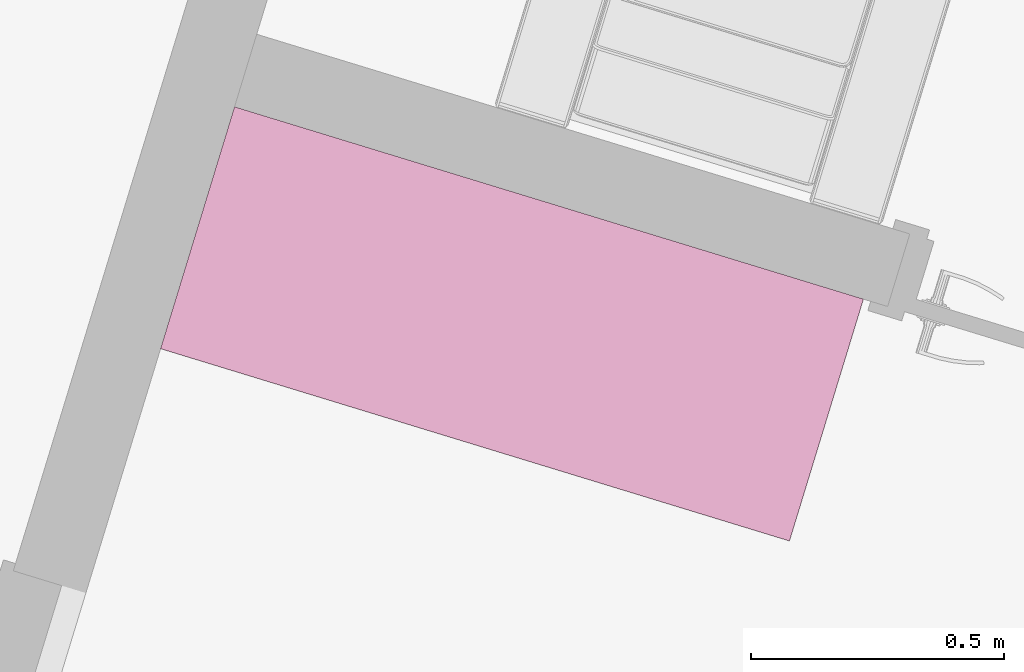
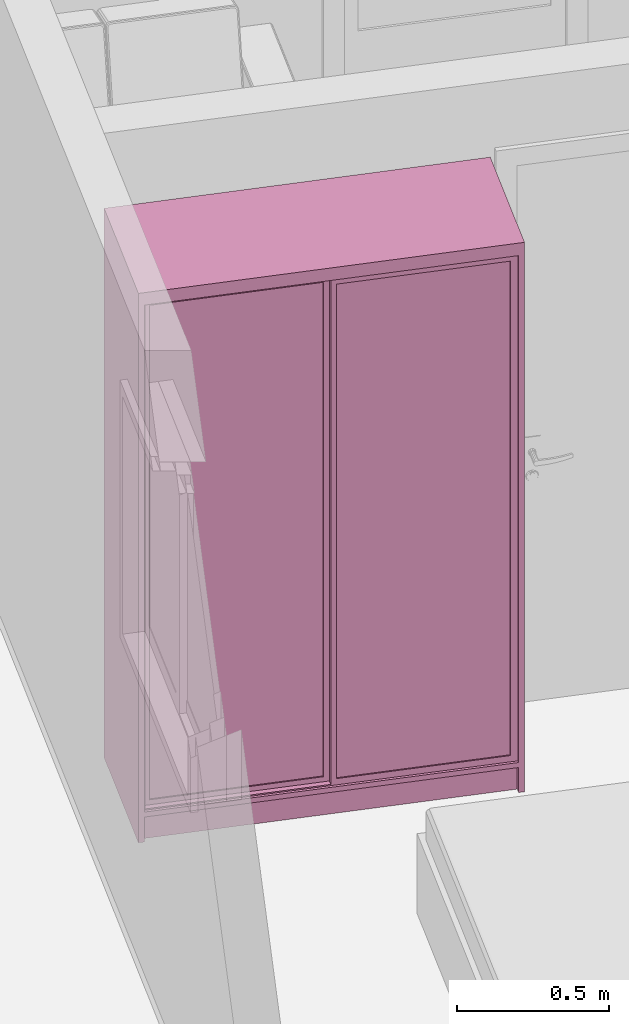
# One storey, part 11 of 13: 1 furnishing.
"""IFC2X3 building model written with IfcOpenShell, lengths in millimetres."""

from ifc_helpers import new_model, entity, si_unit, converted_unit, derived_unit, money_unit, direction, frame, origin_with_axes, place, context, subcontext, project, spatial, faceted_brep, type_object, element, save


model = new_model("IFC2X3")

# Units and contexts
model_context = context("Model", 3, precision=0.01, world=origin_with_axes(), true_north=direction((0.0, 1.0)))
body_context = subcontext(model_context, "Body", "Model", "MODEL_VIEW")
ifc_project = project(units=[si_unit("LENGTHUNIT", "METRE", prefix="MILLI"), si_unit("AREAUNIT", "SQUARE_METRE"), si_unit("VOLUMEUNIT", "CUBIC_METRE"), converted_unit("PLANEANGLEUNIT", "DEGREE", entity("IfcPlaneAngleMeasure", 0.0174532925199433), si_unit("PLANEANGLEUNIT", "RADIAN"), dimensions=[0, 0, 0, 0, 0, 0, 0]), money_unit("USD"), converted_unit("TIMEUNIT", "Year", entity("IfcTimeMeasure", 31557600.0), si_unit("TIMEUNIT", "SECOND"), dimensions=[0, 0, 1, 0, 0, 0, 0]), si_unit("MASSUNIT", "GRAM", prefix="KILO"), si_unit("THERMODYNAMICTEMPERATUREUNIT", "DEGREE_CELSIUS"), si_unit("LUMINOUSINTENSITYUNIT", "LUMEN"), si_unit("ENERGYUNIT", "JOULE", prefix="MEGA"), derived_unit("THERMALCONDUCTANCEUNIT", [(si_unit("POWERUNIT", "WATT"), 1), (si_unit("LENGTHUNIT", "METRE"), -1), (si_unit("THERMODYNAMICTEMPERATUREUNIT", "KELVIN"), -1)]), derived_unit("SPECIFICHEATCAPACITYUNIT", [(si_unit("ENERGYUNIT", "JOULE"), 1), (si_unit("MASSUNIT", "GRAM", prefix="KILO"), -1), (si_unit("THERMODYNAMICTEMPERATUREUNIT", "KELVIN"), -1)]), derived_unit("MASSDENSITYUNIT", [(si_unit("MASSUNIT", "GRAM", prefix="KILO"), 1), (si_unit("VOLUMEUNIT", "CUBIC_METRE"), -1)])], contexts=[model_context])

# Site, building, storey, space
site_placement = place(None, frame((0.0, 0.0, 0.0), z_axis=(0.0, 0.0, 1.0), x_axis=(0.9563047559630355, -0.2923717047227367, 0.0)))
site = spatial("IfcSite", under=ifc_project, at=site_placement, Name="Site", CompositionType="ELEMENT")
building_placement = place(site_placement, origin_with_axes())
building = spatial("IfcBuilding", under=site, at=building_placement, Name="Casa Térrea Isolada", CompositionType="ELEMENT")
storey_placement = place(building_placement, origin_with_axes())
storey = spatial("IfcBuildingStorey", under=building, at=storey_placement, Name="Terreo", CompositionType="ELEMENT", Elevation=0.0)
space_placement = place(storey_placement, frame((150.0015215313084, 149.9985476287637, 0.0), z_axis=(0.0, 0.0, 1.0), x_axis=(1.0, 0.0, 0.0)))
space = spatial("IfcSpace", under=storey, at=space_placement, Name="02", CompositionType="ELEMENT", InteriorOrExteriorSpace="INTERNAL")

# Furnishing
furniture_type = type_object("IfcFurnitureType", Name="Wardrobe Modular 27", AssemblyPlace="NOTDEFINED")
furnishing_placement = place(space_placement, frame((0.0, 2499.999224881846, 0.0), z_axis=(0.0, 0.0, 1.0), x_axis=(1.0, 0.0, 0.0)))
element("IfcFurnishingElement", 1, at=furnishing_placement, inside=space, type_object=furniture_type, Name="MB11", context=body_context, shape_type="Brep", body=[
    faceted_brep([(1300.0, 500.0006224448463, 99.99999999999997), (1300.0, 500.0006224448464, 2170.0), (1300.0, 0.0, 2170.0), (1300.0, 0.0, 100.0), (0.0, 500.0006224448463, 99.99999999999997), (0.0, 500.0006224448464, 2170.0), (1280.0, 500.0006224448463, 120.0), (1280.0, 500.0006224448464, 2150.0), (20.0, 500.0006224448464, 2150.0), (20.0, 500.0006224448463, 120.0), (0.0, 0.0, 2170.0), (0.0, 0.0, 100.0), (1280.0, 0.0, 120.0), (20.0, 0.0, 120.0), (20.0, 0.0, 2150.0), (1280.0, 0.0, 2150.0)], [[[0, 1, 2, 3]], [[0, 4, 5, 1], [6, 7, 8, 9]], [[1, 5, 10, 2]], [[3, 2, 10, 11], [12, 13, 14, 15]], [[4, 0, 3, 11]], [[5, 4, 11, 10]], [[7, 6, 12, 15]], [[8, 7, 15, 14]], [[9, 8, 14, 13]], [[6, 9, 13, 12]]]),
    faceted_brep([(20.0, 500.0006224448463, 679.9999999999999), (20.0, 70.0, 679.9999999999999), (20.0, 70.0, 700.0), (20.0, 500.0006224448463, 700.0), (1280.0, 500.0006224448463, 679.9999999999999), (1280.0, 70.0, 679.9999999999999), (1280.0, 70.0, 700.0), (1280.0, 500.0006224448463, 700.0)], [[[0, 1, 2, 3]], [[0, 4, 5, 1]], [[1, 5, 6, 2]], [[3, 2, 6, 7]], [[4, 0, 3, 7]], [[5, 4, 7, 6]]]),
    faceted_brep([(1300.0, 500.0006224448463, 2170.0), (1300.0, 500.0006224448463, 2200.0), (1300.0, 0.0, 2200.0), (1300.0, 0.0, 2170.0), (0.0, 500.0006224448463, 2170.0), (0.0, 500.0006224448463, 2200.0), (0.0, 0.0, 2200.0), (0.0, 0.0, 2170.0)], [[[0, 1, 2, 3]], [[4, 5, 1, 0]], [[1, 5, 6, 2]], [[3, 2, 6, 7]], [[0, 3, 7, 4]], [[7, 6, 5, 4]]]),
    faceted_brep([(20.00000000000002, 500.0006224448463, 0.0), (20.00000000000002, 480.0006224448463, 0.0), (20.00000000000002, 480.0006224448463, 100.0), (20.00000000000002, 500.0006224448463, 100.0), (1280.0, 500.0006224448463, 0.0), (1280.0, 480.0006224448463, 0.0), (1280.0, 480.0006224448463, 100.0), (1280.0, 500.0006224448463, 100.0)], [[[0, 1, 2, 3]], [[0, 4, 5, 1]], [[1, 5, 6, 2]], [[3, 2, 6, 7]], [[4, 0, 3, 7]], [[5, 4, 7, 6]]]),
    faceted_brep([(0.0, 500.0006224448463, 0.0), (0.0, 0.0, 0.0), (0.0, 0.0, 100.0), (0.0, 500.0006224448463, 100.0), (20.00000000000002, 500.0006224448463, 0.0), (20.00000000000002, 0.0, 0.0), (20.00000000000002, 0.0, 100.0), (20.00000000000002, 500.0006224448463, 100.0)], [[[0, 1, 2, 3]], [[0, 4, 5, 1]], [[1, 5, 6, 2]], [[3, 2, 6, 7]], [[4, 0, 3, 7]], [[5, 4, 7, 6]]]),
    faceted_brep([(1280.0, 500.0006224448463, 0.0), (1280.0, 0.0, 0.0), (1280.0, 0.0, 100.0), (1280.0, 500.0006224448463, 100.0), (1300.0, 500.0006224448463, 0.0), (1300.0, 0.0, 0.0), (1300.0, 0.0, 100.0), (1300.0, 500.0006224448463, 100.0)], [[[0, 1, 2, 3]], [[0, 4, 5, 1]], [[1, 5, 6, 2]], [[3, 2, 6, 7]], [[4, 0, 3, 7]], [[5, 4, 7, 6]]]),
    faceted_brep([(20.00000000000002, 40.00000000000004, 0.0), (20.00000000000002, 20.00000000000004, 0.0), (20.00000000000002, 20.00000000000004, 100.0), (20.00000000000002, 40.00000000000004, 100.0), (1280.0, 40.00000000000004, 0.0), (1280.0, 20.00000000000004, 0.0), (1280.0, 20.00000000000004, 100.0), (1280.0, 40.00000000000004, 100.0)], [[[0, 1, 2, 3]], [[0, 4, 5, 1]], [[1, 5, 6, 2]], [[3, 2, 6, 7]], [[4, 0, 3, 7]], [[5, 4, 7, 6]]]),
    faceted_brep([(20.0, 269.0003112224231, 2012.5), (20.0, 277.0003112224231, 1998.643593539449), (45.0, 277.0003112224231, 1998.643593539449), (45.0, 269.0003112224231, 2012.5), (20.0, 269.0003112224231, 2037.5), (20.0, 277.0003112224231, 2051.356406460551), (20.0, 293.0003112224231, 2051.356406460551), (20.0, 301.0003112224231, 2037.5), (20.0, 301.0003112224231, 2012.5), (20.0, 293.0003112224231, 1998.643593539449), (45.0, 293.0003112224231, 1998.643593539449), (45.0, 301.0003112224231, 2012.5), (45.0, 301.0003112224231, 2037.5), (45.0, 293.0003112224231, 2051.356406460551), (45.0, 277.0003112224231, 2051.356406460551), (45.0, 269.0003112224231, 2037.5)], [[[0, 1, 2, 3]], [[0, 4, 5, 6, 7, 8, 9, 1]], [[1, 9, 10, 2]], [[3, 2, 10, 11, 12, 13, 14, 15]], [[4, 0, 3, 15]], [[5, 4, 15, 14]], [[6, 5, 14, 13]], [[7, 6, 13, 12]], [[8, 7, 12, 11]], [[9, 8, 11, 10]]]),
    faceted_brep([(45.0, 272.5003112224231, 2012.5), (45.0, 278.7503112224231, 2001.674682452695), (1255.0, 278.7503112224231, 2001.674682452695), (1255.0, 272.5003112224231, 2012.5), (45.0, 272.5003112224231, 2037.5), (45.0, 278.7503112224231, 2048.325317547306), (45.0, 291.2503112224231, 2048.325317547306), (45.0, 297.5003112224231, 2037.5), (45.0, 297.5003112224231, 2012.5), (45.0, 291.2503112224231, 2001.674682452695), (1255.0, 291.2503112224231, 2001.674682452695), (1255.0, 297.500311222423, 2012.5), (1255.0, 297.500311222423, 2037.5), (1255.0, 291.2503112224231, 2048.325317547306), (1255.0, 278.7503112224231, 2048.325317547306), (1255.0, 272.5003112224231, 2037.5)], [[[0, 1, 2, 3]], [[0, 4, 5, 6, 7, 8, 9, 1]], [[1, 9, 10, 2]], [[3, 2, 10, 11, 12, 13, 14, 15]], [[4, 0, 3, 15]], [[5, 4, 15, 14]], [[6, 5, 14, 13]], [[7, 6, 13, 12]], [[8, 7, 12, 11]], [[9, 8, 11, 10]]]),
    faceted_brep([(1255.0, 269.0003112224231, 2012.5), (1255.0, 277.0003112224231, 1998.643593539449), (1280.0, 277.0003112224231, 1998.643593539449), (1280.0, 269.0003112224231, 2012.5), (1255.0, 269.0003112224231, 2037.5), (1255.0, 277.0003112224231, 2051.356406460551), (1255.0, 293.0003112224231, 2051.356406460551), (1255.0, 301.0003112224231, 2037.5), (1255.0, 301.0003112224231, 2012.5), (1255.0, 293.0003112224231, 1998.643593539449), (1280.0, 293.0003112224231, 1998.643593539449), (1280.0, 301.0003112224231, 2012.5), (1280.0, 301.0003112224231, 2037.5), (1280.0, 293.0003112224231, 2051.356406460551), (1280.0, 277.0003112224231, 2051.356406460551), (1280.0, 269.0003112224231, 2037.5)], [[[0, 1, 2, 3]], [[0, 4, 5, 6, 7, 8, 9, 1]], [[1, 9, 10, 2]], [[3, 2, 10, 11, 12, 13, 14, 15]], [[4, 0, 3, 15]], [[5, 4, 15, 14]], [[6, 5, 14, 13]], [[7, 6, 13, 12]], [[8, 7, 12, 11]], [[9, 8, 11, 10]]]),
    faceted_brep([(20.49999999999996, 70.0, 120.5), (1279.5, 70.0, 120.5), (1279.5, 50.0, 120.5), (20.49999999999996, 50.0, 120.5), (20.49999999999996, 70.00000000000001, 309.5), (80.4999999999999, 70.00000000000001, 309.5), (80.4999999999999, 70.00000000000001, 279.4999999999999), (1219.5, 70.00000000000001, 279.4999999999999), (1219.5, 70.00000000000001, 309.5), (1279.5, 70.00000000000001, 309.5), (1279.5, 50.00000000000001, 309.5), (1219.5, 50.00000000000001, 309.5), (1219.5, 50.00000000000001, 279.4999999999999), (80.4999999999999, 50.00000000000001, 279.4999999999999), (80.4999999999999, 50.00000000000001, 309.5), (20.49999999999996, 50.00000000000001, 309.5)], [[[0, 1, 2, 3]], [[0, 4, 5, 6, 7, 8, 9, 1]], [[1, 9, 10, 2]], [[3, 2, 10, 11, 12, 13, 14, 15]], [[4, 0, 3, 15]], [[5, 4, 15, 14]], [[6, 5, 14, 13]], [[7, 6, 13, 12]], [[8, 7, 12, 11]], [[9, 8, 11, 10]]]),
    faceted_brep([(50.0, 70.0, 130.0), (1250.0, 70.0, 130.0), (1250.0, 70.0, 150.0), (50.0, 70.0, 150.0), (50.0, 470.0006224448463, 130.0), (1250.0, 470.0006224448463, 130.0), (1250.0, 470.0006224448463, 150.0), (50.0, 470.0006224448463, 150.0)], [[[0, 1, 2, 3]], [[0, 4, 5, 1]], [[1, 5, 6, 2]], [[3, 2, 6, 7]], [[4, 0, 3, 7]], [[5, 4, 7, 6]]]),
    faceted_brep([(30.0, 70.0, 130.0), (50.0, 70.0, 130.0), (50.0, 70.0, 290.0), (30.0, 70.0, 290.0), (30.0, 490.0006224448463, 130.0), (50.0, 490.0006224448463, 130.0), (50.0, 490.0006224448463, 290.0), (30.0, 490.0006224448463, 290.0)], [[[0, 1, 2, 3]], [[0, 4, 5, 1]], [[1, 5, 6, 2]], [[3, 2, 6, 7]], [[4, 0, 3, 7]], [[5, 4, 7, 6]]]),
    faceted_brep([(1270.0, 490.0006224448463, 130.0), (1250.0, 490.0006224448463, 130.0), (1250.0, 490.0006224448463, 290.0), (1270.0, 490.0006224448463, 290.0), (1270.0, 70.0, 130.0), (1250.0, 70.0, 130.0), (1250.0, 70.0, 290.0), (1270.0, 70.0, 290.0)], [[[0, 1, 2, 3]], [[0, 4, 5, 1]], [[1, 5, 6, 2]], [[3, 2, 6, 7]], [[4, 0, 3, 7]], [[5, 4, 7, 6]]]),
    faceted_brep([(50.0, 470.0006224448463, 130.0), (1250.0, 470.0006224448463, 130.0), (1250.0, 470.0006224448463, 290.0), (50.0, 470.0006224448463, 290.0), (50.0, 490.0006224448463, 130.0), (1250.0, 490.0006224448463, 130.0), (1250.0, 490.0006224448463, 290.0), (50.0, 490.0006224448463, 290.0)], [[[0, 1, 2, 3]], [[0, 4, 5, 1]], [[1, 5, 6, 2]], [[3, 2, 6, 7]], [[4, 0, 3, 7]], [[5, 4, 7, 6]]]),
    faceted_brep([(20.49999999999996, 70.0, 310.5), (1279.5, 70.0, 310.5), (1279.5, 50.0, 310.5), (20.49999999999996, 50.0, 310.5), (20.49999999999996, 70.00000000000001, 499.4999999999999), (80.4999999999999, 70.00000000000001, 499.4999999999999), (80.4999999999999, 70.00000000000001, 469.5), (1219.5, 70.00000000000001, 469.5), (1219.5, 70.00000000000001, 499.4999999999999), (1279.5, 70.00000000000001, 499.4999999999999), (1279.5, 50.00000000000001, 499.4999999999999), (1219.5, 50.00000000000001, 499.4999999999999), (1219.5, 50.00000000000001, 469.5), (80.4999999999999, 50.00000000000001, 469.5), (80.4999999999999, 50.00000000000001, 499.4999999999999), (20.49999999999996, 50.00000000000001, 499.4999999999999)], [[[0, 1, 2, 3]], [[0, 4, 5, 6, 7, 8, 9, 1]], [[1, 9, 10, 2]], [[3, 2, 10, 11, 12, 13, 14, 15]], [[4, 0, 3, 15]], [[5, 4, 15, 14]], [[6, 5, 14, 13]], [[7, 6, 13, 12]], [[8, 7, 12, 11]], [[9, 8, 11, 10]]]),
    faceted_brep([(50.0, 70.0, 320.0), (1250.0, 70.0, 320.0), (1250.0, 70.0, 340.0), (50.0, 70.0, 340.0), (50.0, 470.0006224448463, 320.0), (1250.0, 470.0006224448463, 320.0), (1250.0, 470.0006224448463, 340.0), (50.0, 470.0006224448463, 340.0)], [[[0, 1, 2, 3]], [[0, 4, 5, 1]], [[1, 5, 6, 2]], [[3, 2, 6, 7]], [[4, 0, 3, 7]], [[5, 4, 7, 6]]]),
    faceted_brep([(30.0, 70.0, 320.0), (50.0, 70.0, 320.0), (50.0, 70.0, 480.0), (30.0, 70.0, 480.0), (30.0, 490.0006224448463, 320.0), (50.0, 490.0006224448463, 320.0), (50.0, 490.0006224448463, 480.0), (30.0, 490.0006224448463, 480.0)], [[[0, 1, 2, 3]], [[0, 4, 5, 1]], [[1, 5, 6, 2]], [[3, 2, 6, 7]], [[4, 0, 3, 7]], [[5, 4, 7, 6]]]),
    faceted_brep([(1270.0, 490.0006224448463, 320.0), (1250.0, 490.0006224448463, 320.0), (1250.0, 490.0006224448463, 480.0), (1270.0, 490.0006224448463, 480.0), (1270.0, 70.0, 320.0), (1250.0, 70.0, 320.0), (1250.0, 70.0, 480.0), (1270.0, 70.0, 480.0)], [[[0, 1, 2, 3]], [[0, 4, 5, 1]], [[1, 5, 6, 2]], [[3, 2, 6, 7]], [[4, 0, 3, 7]], [[5, 4, 7, 6]]]),
    faceted_brep([(50.0, 470.0006224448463, 320.0), (1250.0, 470.0006224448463, 320.0), (1250.0, 470.0006224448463, 480.0), (50.0, 470.0006224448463, 480.0), (50.0, 490.0006224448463, 320.0), (1250.0, 490.0006224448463, 320.0), (1250.0, 490.0006224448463, 480.0), (50.0, 490.0006224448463, 480.0)], [[[0, 1, 2, 3]], [[0, 4, 5, 1]], [[1, 5, 6, 2]], [[3, 2, 6, 7]], [[4, 0, 3, 7]], [[5, 4, 7, 6]]]),
    faceted_brep([(20.49999999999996, 70.0, 500.4999999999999), (1279.5, 70.0, 500.4999999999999), (1279.5, 50.0, 500.4999999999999), (20.49999999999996, 50.0, 500.4999999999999), (20.49999999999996, 70.00000000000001, 689.4999999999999), (80.4999999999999, 70.00000000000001, 689.4999999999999), (80.4999999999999, 70.00000000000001, 659.5), (1219.5, 70.00000000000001, 659.5), (1219.5, 70.00000000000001, 689.4999999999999), (1279.5, 70.00000000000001, 689.4999999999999), (1279.5, 50.00000000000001, 689.4999999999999), (1219.5, 50.00000000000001, 689.4999999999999), (1219.5, 50.00000000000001, 659.5), (80.4999999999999, 50.00000000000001, 659.5), (80.4999999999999, 50.00000000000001, 689.4999999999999), (20.49999999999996, 50.00000000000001, 689.4999999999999)], [[[0, 1, 2, 3]], [[0, 4, 5, 6, 7, 8, 9, 1]], [[1, 9, 10, 2]], [[3, 2, 10, 11, 12, 13, 14, 15]], [[4, 0, 3, 15]], [[5, 4, 15, 14]], [[6, 5, 14, 13]], [[7, 6, 13, 12]], [[8, 7, 12, 11]], [[9, 8, 11, 10]]]),
    faceted_brep([(50.0, 70.0, 509.9999999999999), (1250.0, 70.0, 509.9999999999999), (1250.0, 70.0, 529.9999999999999), (50.0, 70.0, 529.9999999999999), (50.0, 470.0006224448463, 509.9999999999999), (1250.0, 470.0006224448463, 509.9999999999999), (1250.0, 470.0006224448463, 529.9999999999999), (50.0, 470.0006224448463, 529.9999999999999)], [[[0, 1, 2, 3]], [[0, 4, 5, 1]], [[1, 5, 6, 2]], [[3, 2, 6, 7]], [[4, 0, 3, 7]], [[5, 4, 7, 6]]]),
    faceted_brep([(30.0, 70.0, 510.0), (50.0, 70.0, 510.0), (50.0, 70.0, 669.9999999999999), (30.0, 70.0, 669.9999999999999), (30.0, 490.0006224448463, 510.0), (50.0, 490.0006224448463, 510.0), (50.0, 490.0006224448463, 669.9999999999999), (30.0, 490.0006224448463, 669.9999999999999)], [[[0, 1, 2, 3]], [[0, 4, 5, 1]], [[1, 5, 6, 2]], [[3, 2, 6, 7]], [[4, 0, 3, 7]], [[5, 4, 7, 6]]]),
    faceted_brep([(1270.0, 490.0006224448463, 510.0), (1250.0, 490.0006224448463, 510.0), (1250.0, 490.0006224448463, 669.9999999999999), (1270.0, 490.0006224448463, 669.9999999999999), (1270.0, 70.0, 510.0), (1250.0, 70.0, 510.0), (1250.0, 70.0, 669.9999999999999), (1270.0, 70.0, 669.9999999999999)], [[[0, 1, 2, 3]], [[0, 4, 5, 1]], [[1, 5, 6, 2]], [[3, 2, 6, 7]], [[4, 0, 3, 7]], [[5, 4, 7, 6]]]),
    faceted_brep([(50.0, 470.0006224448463, 510.0), (1250.0, 470.0006224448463, 510.0), (1250.0, 470.0006224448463, 669.9999999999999), (50.0, 470.0006224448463, 669.9999999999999), (50.0, 490.0006224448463, 510.0), (1250.0, 490.0006224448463, 510.0), (1250.0, 490.0006224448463, 669.9999999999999), (50.0, 490.0006224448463, 669.9999999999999)], [[[0, 1, 2, 3]], [[0, 4, 5, 1]], [[1, 5, 6, 2]], [[3, 2, 6, 7]], [[4, 0, 3, 7]], [[5, 4, 7, 6]]]),
    faceted_brep([(20.0, 50.00000000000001, 120.0), (1280.0, 50.00000000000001, 120.0), (1280.0, 10.00000000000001, 120.0), (20.0, 10.00000000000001, 120.0), (20.0, 50.00000000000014, 2150.0), (1280.0, 50.00000000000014, 2150.0), (25.0, 50.00000000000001, 125.0), (1275.0, 50.00000000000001, 125.0), (1275.0, 50.00000000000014, 2145.0), (25.0, 50.00000000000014, 2145.0), (1280.0, 10.00000000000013, 2150.0), (20.0, 10.00000000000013, 2150.0), (25.0, 10.00000000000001, 125.0), (25.0, 10.00000000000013, 2145.0), (1275.0, 10.00000000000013, 2145.0), (1275.0, 10.00000000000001, 125.0)], [[[0, 1, 2, 3]], [[0, 4, 5, 1], [6, 7, 8, 9]], [[1, 5, 10, 2]], [[3, 2, 10, 11], [12, 13, 14, 15]], [[4, 0, 3, 11]], [[5, 4, 11, 10]], [[7, 6, 12, 15]], [[8, 7, 15, 14]], [[9, 8, 14, 13]], [[6, 9, 13, 12]]]),
    faceted_brep([(650.0, 50.0, 125.0), (650.0, 50.00000000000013, 2145.0), (650.0, 30.00000000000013, 2145.0), (650.0, 30.0, 125.0), (630.0, 50.0, 145.0), (630.0, 50.00000000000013, 2125.0), (630.0, 30.00000000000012, 2125.0), (630.0, 30.0, 145.0)], [[[0, 1, 2, 3]], [[0, 4, 5, 1]], [[1, 5, 6, 2]], [[3, 2, 6, 7]], [[4, 0, 3, 7]], [[5, 4, 7, 6]]]),
    faceted_brep([(45.00000000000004, 50.0, 145.0), (45.00000000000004, 50.00000000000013, 2125.0), (45.00000000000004, 30.00000000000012, 2125.0), (45.00000000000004, 30.0, 145.0), (25.00000000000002, 50.0, 125.0), (25.00000000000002, 50.00000000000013, 2145.0), (25.00000000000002, 30.00000000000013, 2145.0), (25.00000000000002, 30.0, 125.0)], [[[0, 1, 2, 3]], [[0, 4, 5, 1]], [[1, 5, 6, 2]], [[3, 2, 6, 7]], [[4, 0, 3, 7]], [[5, 4, 7, 6]]]),
    faceted_brep([(25.00000000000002, 50.0, 125.0), (650.0, 50.0, 125.0), (650.0, 30.0, 125.0), (25.00000000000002, 30.0, 125.0), (45.00000000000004, 50.0, 145.0), (630.0, 50.0, 145.0), (630.0, 30.0, 145.0), (45.00000000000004, 30.0, 145.0)], [[[0, 1, 2, 3]], [[0, 4, 5, 1]], [[1, 5, 6, 2]], [[3, 2, 6, 7]], [[4, 0, 3, 7]], [[5, 4, 7, 6]]]),
    faceted_brep([(45.00000000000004, 50.00000000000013, 2125.0), (630.0, 50.00000000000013, 2125.0), (630.0, 30.00000000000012, 2125.0), (45.00000000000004, 30.00000000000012, 2125.0), (25.00000000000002, 50.00000000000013, 2145.0), (650.0, 50.00000000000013, 2145.0), (650.0, 30.00000000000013, 2145.0), (25.00000000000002, 30.00000000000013, 2145.0)], [[[0, 1, 2, 3]], [[0, 4, 5, 1]], [[1, 5, 6, 2]], [[3, 2, 6, 7]], [[4, 0, 3, 7]], [[5, 4, 7, 6]]]),
    faceted_brep([(630.0, 45.00000000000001, 145.0), (630.0, 45.00000000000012, 2125.0), (630.0, 35.00000000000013, 2125.0), (630.0, 35.0, 145.0), (45.00000000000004, 45.00000000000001, 145.0), (45.00000000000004, 45.00000000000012, 2125.0), (45.00000000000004, 35.00000000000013, 2125.0), (45.00000000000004, 35.0, 145.0)], [[[0, 1, 2, 3]], [[0, 4, 5, 1]], [[1, 5, 6, 2]], [[3, 2, 6, 7]], [[4, 0, 3, 7]], [[5, 4, 7, 6]]]),
    faceted_brep([(1275.0, 30.0, 125.0), (1275.0, 30.00000000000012, 2145.0), (1275.0, 10.00000000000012, 2145.0), (1275.0, 9.999999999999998, 125.0), (1255.0, 30.0, 145.0), (1255.0, 30.00000000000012, 2125.0), (1255.0, 10.00000000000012, 2125.0), (1255.0, 9.999999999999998, 145.0)], [[[0, 1, 2, 3]], [[0, 4, 5, 1]], [[1, 5, 6, 2]], [[3, 2, 6, 7]], [[4, 0, 3, 7]], [[5, 4, 7, 6]]]),
    faceted_brep([(670.0, 30.0, 145.0), (670.0, 30.00000000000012, 2125.0), (670.0, 10.00000000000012, 2125.0), (670.0, 9.999999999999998, 145.0), (650.0, 30.0, 125.0), (650.0, 30.00000000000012, 2145.0), (650.0, 10.00000000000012, 2145.0), (650.0, 9.999999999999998, 125.0)], [[[0, 1, 2, 3]], [[0, 4, 5, 1]], [[1, 5, 6, 2]], [[3, 2, 6, 7]], [[4, 0, 3, 7]], [[5, 4, 7, 6]]]),
    faceted_brep([(650.0, 30.0, 125.0), (1275.0, 30.0, 125.0), (1275.0, 9.999999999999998, 125.0), (650.0, 9.999999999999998, 125.0), (670.0, 30.0, 145.0), (1255.0, 30.0, 145.0), (1255.0, 9.999999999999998, 145.0), (670.0, 9.999999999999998, 145.0)], [[[0, 1, 2, 3]], [[0, 4, 5, 1]], [[1, 5, 6, 2]], [[3, 2, 6, 7]], [[4, 0, 3, 7]], [[5, 4, 7, 6]]]),
    faceted_brep([(670.0, 30.00000000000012, 2125.0), (1255.0, 30.00000000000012, 2125.0), (1255.0, 10.00000000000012, 2125.0), (670.0, 10.00000000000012, 2125.0), (650.0, 30.00000000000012, 2145.0), (1275.0, 30.00000000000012, 2145.0), (1275.0, 10.00000000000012, 2145.0), (650.0, 10.00000000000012, 2145.0)], [[[0, 1, 2, 3]], [[0, 4, 5, 1]], [[1, 5, 6, 2]], [[3, 2, 6, 7]], [[4, 0, 3, 7]], [[5, 4, 7, 6]]]),
    faceted_brep([(1255.0, 25.0, 145.0), (1255.0, 25.00000000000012, 2125.0), (1255.0, 20.00000000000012, 2125.0), (1255.0, 20.0, 145.0), (670.0, 25.0, 145.0), (670.0, 25.00000000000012, 2125.0), (670.0, 20.00000000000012, 2125.0), (670.0, 20.0, 145.0)], [[[0, 1, 2, 3]], [[0, 4, 5, 1]], [[1, 5, 6, 2]], [[3, 2, 6, 7]], [[4, 0, 3, 7]], [[5, 4, 7, 6]]]),
    faceted_brep([(1255.0, 20.0, 145.0), (1255.0, 20.00000000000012, 2125.0), (1255.0, 15.00000000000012, 2125.0), (1255.0, 15.0, 145.0), (670.0, 20.0, 145.0), (670.0, 20.00000000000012, 2125.0), (670.0, 15.00000000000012, 2125.0), (670.0, 15.0, 145.0)], [[[0, 1, 2, 3]], [[0, 4, 5, 1]], [[1, 5, 6, 2]], [[3, 2, 6, 7]], [[4, 0, 3, 7]], [[5, 4, 7, 6]]]),
])

save(model, "model.ifc")
